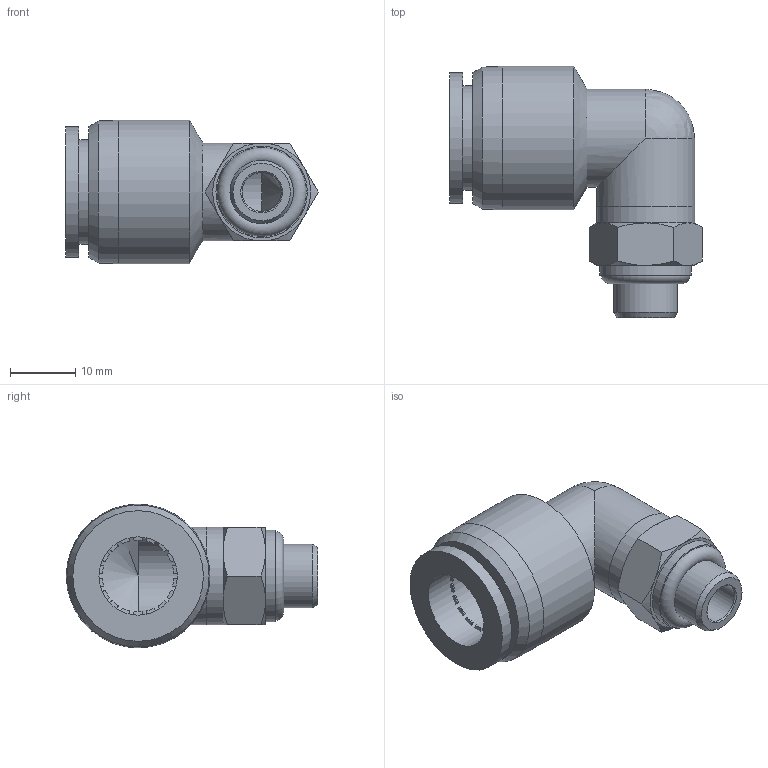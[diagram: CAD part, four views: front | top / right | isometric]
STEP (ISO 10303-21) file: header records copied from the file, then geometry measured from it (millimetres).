
FILE_DESCRIPTION(/* description */ (''),/* implementation_level */ '2;1');
FILE_NAME(/* name */ 'C:\Users\Paola\Desktop\Documenti Konfit\Disegni 3D\RP721812.stp',/* time_stamp */ '2017-07-17T23:05:08+02:00',/* author */ ('Paola'),/* organization */ (''),/* preprocessor_version */ 'ST-DEVELOPER v16.1',/* originating_system */ 'Autodesk Inventor 2016',/* authorisation */ '');
FILE_SCHEMA (('AUTOMOTIVE_DESIGN { 1 0 10303 214 3 1 1 }'));
Length unit declared in the file: millimetre
Products named in the file (1): RP721812
Bounding box: 38.66 x 38.5 x 22 mm (x, y, z)
Volume: 7771.1 mm3; surface area: 5872.7 mm2
Topology: 2 solids, 2 shells, 425 faces, 1234 edges, 814 vertices
Faces by surface type: plane 141, cone 127, cylinder 101, bspline 36, torus 19, sphere 1
Full cylindrical faces by diameter (mm): 6 x1, 9.728 x1, 12 x2, 14 x1, 14.98 x1, 15 x2, 16 x1, 20 x1, 22 x1
Entity records: 17193 total; most frequent: CARTESIAN_POINT 7125, ORIENTED_EDGE 2414, DIRECTION 1554, EDGE_CURVE 1207, VERTEX_POINT 808, AXIS2_PLACEMENT_3D 629, EDGE_LOOP 451, STYLED_ITEM 427
